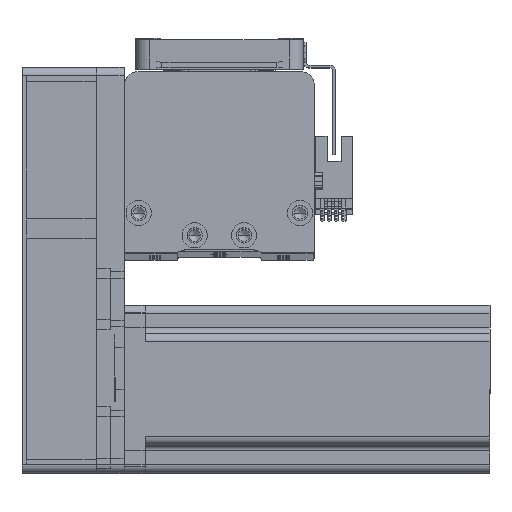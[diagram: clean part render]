
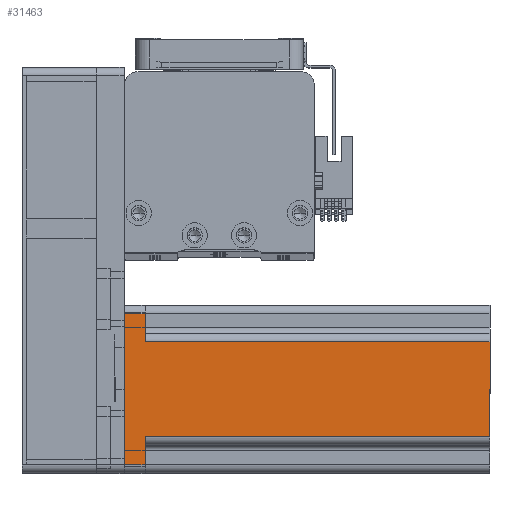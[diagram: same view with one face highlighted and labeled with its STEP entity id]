
A CAD part, top view. The second image highlights one B-rep face of the part: STEP entity #31463.
In plain terms, the highlighted planar face has unit normal (0, 0, 1) as drawn and (0, -1, 0) by its records, which use the part's own axes.
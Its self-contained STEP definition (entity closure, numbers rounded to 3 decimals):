
#2011 = DIRECTION ( 'NONE',  ( -1., 0., 0. ) ) ;
#2279 = VECTOR ( 'NONE', #4938, 1000. ) ;
#2498 = LINE ( 'NONE', #21491, #43549 ) ;
#2957 = VECTOR ( 'NONE', #47861, 1000. ) ;
#4200 = EDGE_CURVE ( 'NONE', #40110, #9687, #19215, .T. ) ;
#4803 = ORIENTED_EDGE ( 'NONE', *, *, #37027, .F. ) ;
#4938 = DIRECTION ( 'NONE',  ( 0., 0., -1. ) ) ;
#6219 = VERTEX_POINT ( 'NONE', #20347 ) ;
#7212 = DIRECTION ( 'NONE',  ( 1., 0., 0. ) ) ;
#8504 = EDGE_CURVE ( 'NONE', #6219, #40110, #12919, .T. ) ;
#9249 = LINE ( 'NONE', #39455, #18565 ) ;
#9687 = VERTEX_POINT ( 'NONE', #26653 ) ;
#11782 = CARTESIAN_POINT ( 'NONE',  ( 20., -30., 7.5 ) ) ;
#11843 = ORIENTED_EDGE ( 'NONE', *, *, #28754, .T. ) ;
#12919 = LINE ( 'NONE', #24793, #2279 ) ;
#13581 = AXIS2_PLACEMENT_3D ( 'NONE', #49572, #25901, #2011 ) ;
#15846 = DIRECTION ( 'NONE',  ( 1., 0., 0. ) ) ;
#17485 = CARTESIAN_POINT ( 'NONE',  ( 17., -30., 7.5 ) ) ;
#17709 = ORIENTED_EDGE ( 'NONE', *, *, #29521, .F. ) ;
#17950 = VECTOR ( 'NONE', #24356, 1000. ) ;
#17964 = VERTEX_POINT ( 'NONE', #34883 ) ;
#18565 = VECTOR ( 'NONE', #35470, 1000. ) ;
#19215 = LINE ( 'NONE', #32047, #17950 ) ;
#20347 = CARTESIAN_POINT ( 'NONE',  ( -27., -30., 7.5 ) ) ;
#20945 = VECTOR ( 'NONE', #15846, 1000. ) ;
#21491 = CARTESIAN_POINT ( 'NONE',  ( 27., -30., 130.7 ) ) ;
#23056 = CARTESIAN_POINT ( 'NONE',  ( -20., -30., 7.5 ) ) ;
#24190 = LINE ( 'NONE', #43729, #2957 ) ;
#24338 = EDGE_CURVE ( 'NONE', #17964, #42818, #34499, .T. ) ;
#24356 = DIRECTION ( 'NONE',  ( 1., 0., 0. ) ) ;
#24793 = CARTESIAN_POINT ( 'NONE',  ( -27., -30., 130.7 ) ) ;
#25901 = DIRECTION ( 'NONE',  ( 0., 1., 0. ) ) ;
#26083 = ORIENTED_EDGE ( 'NONE', *, *, #24338, .T. ) ;
#26653 = CARTESIAN_POINT ( 'NONE',  ( 27., -30., 0. ) ) ;
#28754 = EDGE_CURVE ( 'NONE', #42818, #30361, #24190, .T. ) ;
#29093 = VERTEX_POINT ( 'NONE', #32453 ) ;
#29521 = EDGE_CURVE ( 'NONE', #29093, #30361, #31569, .T. ) ;
#29732 = PLANE ( 'NONE',  #13581 ) ;
#30361 = VERTEX_POINT ( 'NONE', #34214 ) ;
#31463 = ADVANCED_FACE ( 'NONE', ( #31934 ), #29732, .F. ) ;
#31569 = LINE ( 'NONE', #35632, #20945 ) ;
#31934 = FACE_OUTER_BOUND ( 'NONE', #44237, .T. ) ;
#32047 = CARTESIAN_POINT ( 'NONE',  ( 30., -30., 0. ) ) ;
#32453 = CARTESIAN_POINT ( 'NONE',  ( -17., -30., 130.7 ) ) ;
#32756 = VECTOR ( 'NONE', #7212, 1000. ) ;
#34214 = CARTESIAN_POINT ( 'NONE',  ( 17., -30., 130.7 ) ) ;
#34458 = EDGE_CURVE ( 'NONE', #29093, #49657, #9249, .T. ) ;
#34499 = LINE ( 'NONE', #11782, #44975 ) ;
#34883 = CARTESIAN_POINT ( 'NONE',  ( 27., -30., 7.5 ) ) ;
#35470 = DIRECTION ( 'NONE',  ( 0., 0., -1. ) ) ;
#35560 = DIRECTION ( 'NONE',  ( -1., 0., 0. ) ) ;
#35632 = CARTESIAN_POINT ( 'NONE',  ( 30., -30., 130.7 ) ) ;
#36233 = ORIENTED_EDGE ( 'NONE', *, *, #4200, .T. ) ;
#36479 = ORIENTED_EDGE ( 'NONE', *, *, #8504, .T. ) ;
#37027 = EDGE_CURVE ( 'NONE', #6219, #49657, #43218, .T. ) ;
#39455 = CARTESIAN_POINT ( 'NONE',  ( -17., -30., 130.7 ) ) ;
#40110 = VERTEX_POINT ( 'NONE', #46981 ) ;
#42818 = VERTEX_POINT ( 'NONE', #17485 ) ;
#43218 = LINE ( 'NONE', #23056, #32756 ) ;
#43549 = VECTOR ( 'NONE', #49352, 1000. ) ;
#43729 = CARTESIAN_POINT ( 'NONE',  ( 17., -30., 130.7 ) ) ;
#44237 = EDGE_LOOP ( 'NONE', ( #17709, #50015, #4803, #36479, #36233, #50195, #26083, #11843 ) ) ;
#44826 = EDGE_CURVE ( 'NONE', #9687, #17964, #2498, .T. ) ;
#44975 = VECTOR ( 'NONE', #35560, 1000. ) ;
#46981 = CARTESIAN_POINT ( 'NONE',  ( -27., -30., 0. ) ) ;
#47861 = DIRECTION ( 'NONE',  ( 0., 0., 1. ) ) ;
#49352 = DIRECTION ( 'NONE',  ( 0., 0., 1. ) ) ;
#49572 = CARTESIAN_POINT ( 'NONE',  ( 30., -30., 130.7 ) ) ;
#49657 = VERTEX_POINT ( 'NONE', #50307 ) ;
#50015 = ORIENTED_EDGE ( 'NONE', *, *, #34458, .T. ) ;
#50195 = ORIENTED_EDGE ( 'NONE', *, *, #44826, .T. ) ;
#50307 = CARTESIAN_POINT ( 'NONE',  ( -17., -30., 7.5 ) ) ;
